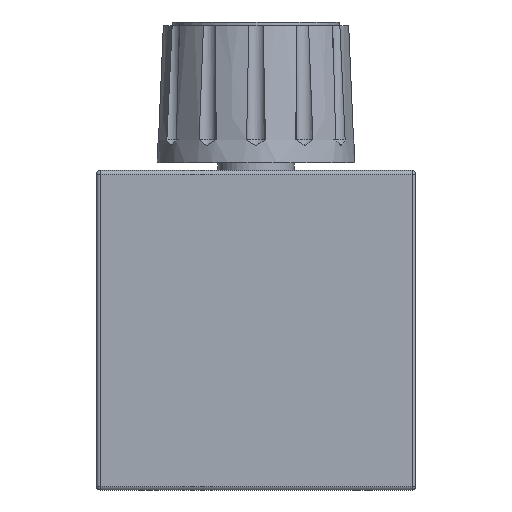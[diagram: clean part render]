
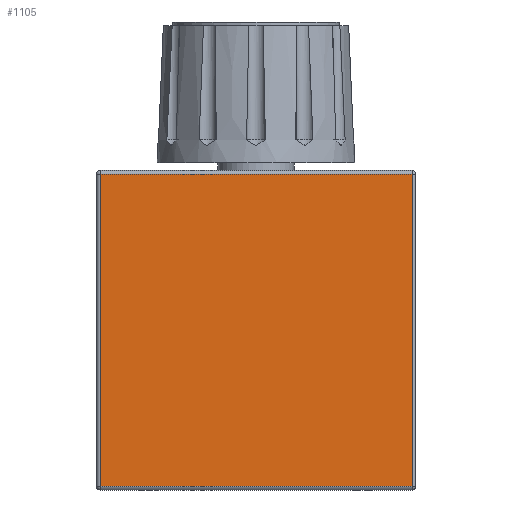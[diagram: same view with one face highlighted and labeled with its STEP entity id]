
A CAD part, front view. The second image highlights one B-rep face of the part: STEP entity #1105.
In plain terms, the highlighted planar face has unit normal (0, -1, 0).
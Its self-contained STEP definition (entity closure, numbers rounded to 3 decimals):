
#627=FACE_OUTER_BOUND('',#2446,.T.);
#1105=ADVANCED_FACE('',(#627),#1512,.T.);
#1512=PLANE('',#9617);
#2446=EDGE_LOOP('',(#4632,#4633,#4634,#4635));
#4632=ORIENTED_EDGE('',*,*,#7059,.T.);
#4633=ORIENTED_EDGE('',*,*,#7060,.T.);
#4634=ORIENTED_EDGE('',*,*,#7061,.T.);
#4635=ORIENTED_EDGE('',*,*,#7062,.T.);
#5876=VERTEX_POINT('',#14682);
#5877=VERTEX_POINT('',#14683);
#5878=VERTEX_POINT('',#14685);
#5879=VERTEX_POINT('',#14687);
#7059=EDGE_CURVE('',#5876,#5877,#8153,.T.);
#7060=EDGE_CURVE('',#5877,#5878,#8154,.T.);
#7061=EDGE_CURVE('',#5878,#5879,#8155,.T.);
#7062=EDGE_CURVE('',#5879,#5876,#8156,.T.);
#8153=LINE('',#14681,#9182);
#8154=LINE('',#14684,#9183);
#8155=LINE('',#14686,#9184);
#8156=LINE('',#14688,#9185);
#9182=VECTOR('',#11480,1.);
#9183=VECTOR('',#11481,1.);
#9184=VECTOR('',#11482,1.);
#9185=VECTOR('',#11483,1.);
#9617=AXIS2_PLACEMENT_3D('',#14689,#11484,#11485);
#11480=DIRECTION('',(1.,0.,0.));
#11481=DIRECTION('',(0.,0.,1.));
#11482=DIRECTION('',(-1.,0.,0.));
#11483=DIRECTION('',(0.,0.,-1.));
#11484=DIRECTION('',(0.,-1.,0.));
#11485=DIRECTION('',(0.,0.,-1.));
#14681=CARTESIAN_POINT('',(21.,0.,0.5));
#14682=CARTESIAN_POINT('',(0.5,0.,0.5));
#14683=CARTESIAN_POINT('',(41.5,0.,0.5));
#14684=CARTESIAN_POINT('',(41.5,0.,0.));
#14685=CARTESIAN_POINT('',(41.5,0.,41.5));
#14686=CARTESIAN_POINT('',(21.,0.,41.5));
#14687=CARTESIAN_POINT('',(0.5,0.,41.5));
#14688=CARTESIAN_POINT('',(0.5,0.,0.));
#14689=CARTESIAN_POINT('',(21.,0.,0.));
